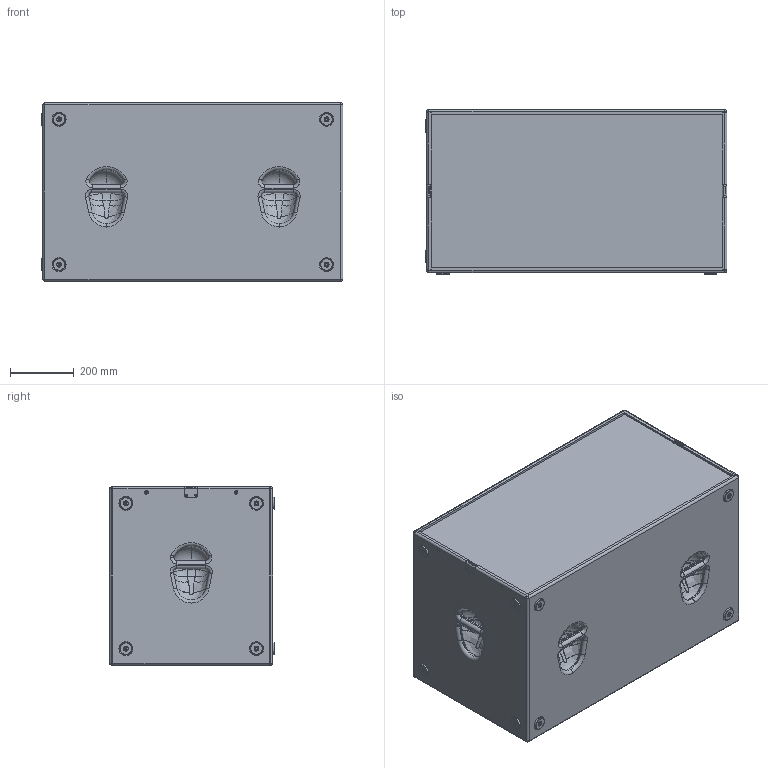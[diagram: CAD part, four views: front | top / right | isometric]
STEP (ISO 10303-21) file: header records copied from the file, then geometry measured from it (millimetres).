
FILE_DESCRIPTION (( 'STEP AP203' ), '1' );
FILE_NAME ('K-Sub-1502.STEP', '2015-07-16T08:00:59', ( 'Michael Anter' ), ( 'SEEBURG acoustic line GmbH' ), 'SwSTEP 2.0', 'SolidWorks 2009', '' );
FILE_SCHEMA (( 'CONFIG_CONTROL_DESIGN' ));
Length unit declared in the file: millimetre
Products named in the file (18): K-Sub-1502; KSub1502; KSub1502 Boden; KSub1502 Deckel; KSub1502 Seite L; KSub1502 Seite R; KSub1502 Rueckwand; KSub1502 ASF Rahmen; KSub1502 Griffdoppel; KSub1502 Griffdeckel M20 A; KSub1502 Griffdeckel M20 B; KSub1502 Griffdeckel M20 C; Befestigungsöse; gummifuss; m20_flansch; Griffdeckel Aero Tropfen; ASF; Gitter
Assembly tree (36 placements, depth 3):
  K-Sub-1502
    KSub1502
      Befestigungsöse  x2
      KSub1502 Seite L
      KSub1502 Griffdoppel  x6
      KSub1502 Griffdeckel M20 C
      KSub1502 Griffdeckel M20 B  x2
      KSub1502 Deckel
      gummifuss  x8
      Griffdeckel Aero Tropfen  x5
      KSub1502 Rueckwand
      KSub1502 Seite R
      KSub1502 ASF Rahmen
      m20_flansch  x2
      KSub1502 Boden
      KSub1502 Griffdeckel M20 A
    Gitter
    ASF
Bounding box: 947 x 517 x 560 mm (x, y, z)
Volume: 34611627.2 mm3; surface area: 5817382.7 mm2
Topology: 35 solids, 35 shells, 1188 faces, 2802 edges, 1699 vertices
Faces by surface type: cylinder 450, plane 372, torus 151, cone 112, bspline 75, sphere 28
Entity records: 25322 total; most frequent: CARTESIAN_POINT 5316, DIRECTION 3979, ORIENTED_EDGE 3480, EDGE_CURVE 1740, AXIS2_PLACEMENT_3D 1534, VERTEX_POINT 1081, LINE 911, VECTOR 911
